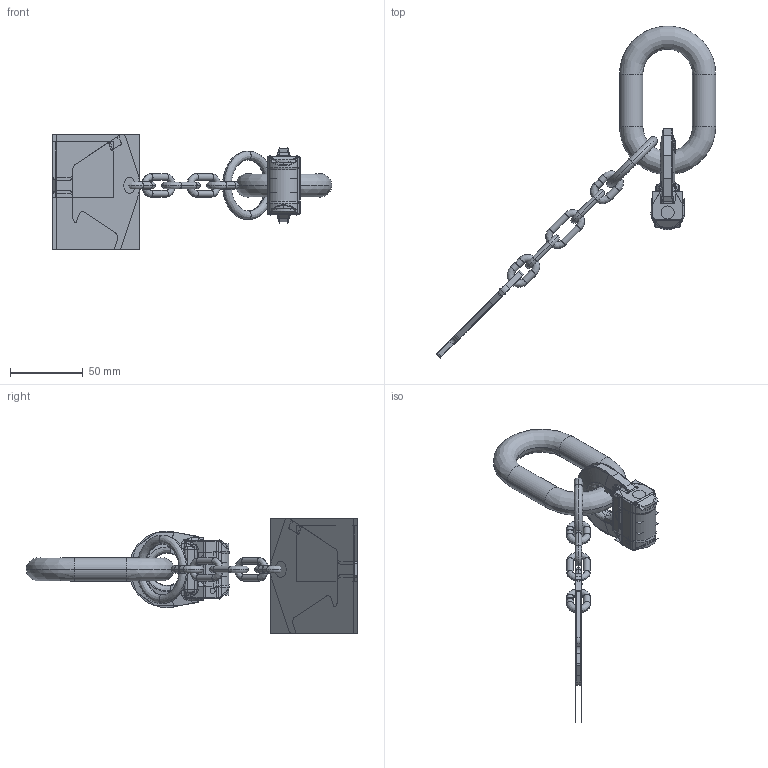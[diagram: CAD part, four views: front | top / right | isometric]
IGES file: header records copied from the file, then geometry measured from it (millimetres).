
Start section:  PTC IGES file: VBK-1-8_7100676_M34472-P-2.igs
Global section: file name: VBK-1-8_7100676_M34472-P-2.igs; native system: Pro/ENGINEER by Parametric Technology Corporation; preprocessor: 2010140; author: Andreas.Wendler; organization: Unknown; date: 20141014.100649; units: millimetre
Bounding box: 191.75 x 227.75 x 79.43 mm (x, y, z)
Volume: 95500.3 mm3; surface area: 171014.3 mm2
Topology: 9 solids, 9 shells, 1124 faces, 5538 edges, 6832 vertices
Faces by surface type: bspline 742, revolution 382
